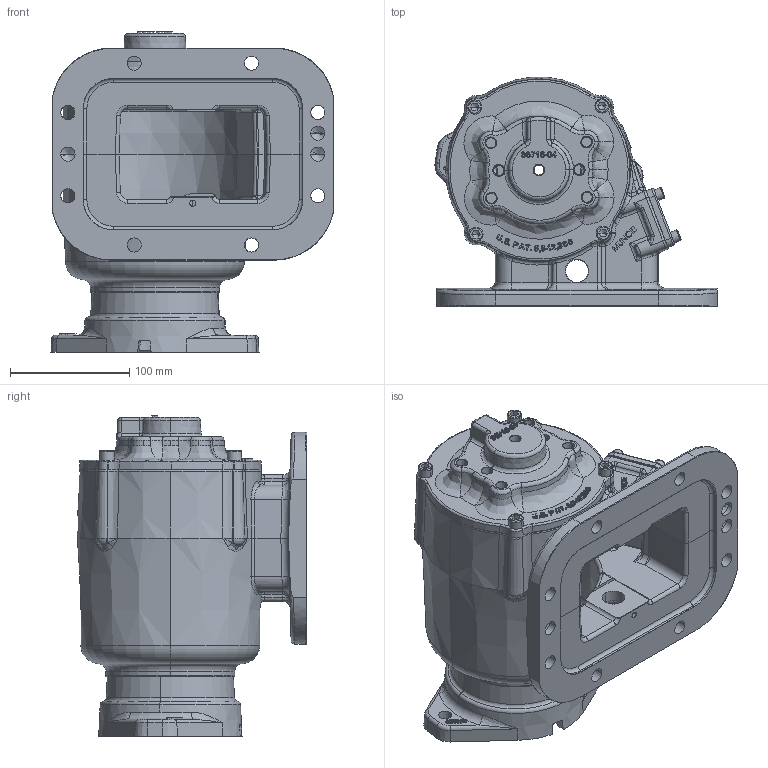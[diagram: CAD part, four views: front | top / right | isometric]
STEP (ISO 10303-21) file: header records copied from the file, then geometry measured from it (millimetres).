
FILE_DESCRIPTION (( 'STEP AP203' ), '1' );
FILE_NAME ('CS8S-XXXXX-E16X.STEP', '2023-05-01T20:18:20', ( '' ), ( '' ), 'SwSTEP 2.0', 'SolidWorks 2021', '' );
FILE_SCHEMA (( 'CONFIG_CONTROL_DESIGN' ));
Length unit declared in the file: inch
Products named in the file (9): 01T42182_01T42182; CS8S-XXXXX-E16X; 14TA4819_Config1; 14T38981; 16t34000; 10T21017; 15T36717; 19T35237; 19T41118
Assembly tree (14 placements, depth 3):
  CS8S-XXXXX-E16X
    16t34000
    15T36717
    01T42182_01T42182
    10T21017
    19T35237  x4
    19T41118  x4
    14TA4819_Config1
      14T38981
Bounding box: 236.65 x 192.24 x 268.87 mm (x, y, z)
Volume: 1688323.8 mm3; surface area: 451689.3 mm2
Topology: 13 solids, 13 shells, 2120 faces, 5470 edges, 3402 vertices
Faces by surface type: bspline 806, plane 573, cylinder 388, cone 190, torus 139, sphere 24
Entity records: 100594 total; most frequent: CARTESIAN_POINT 56696, ORIENTED_EDGE 10124, DIRECTION 6905, EDGE_CURVE 5062, VERTEX_POINT 3189, AXIS2_PLACEMENT_3D 2451, EDGE_LOOP 2229, LINE 2003
